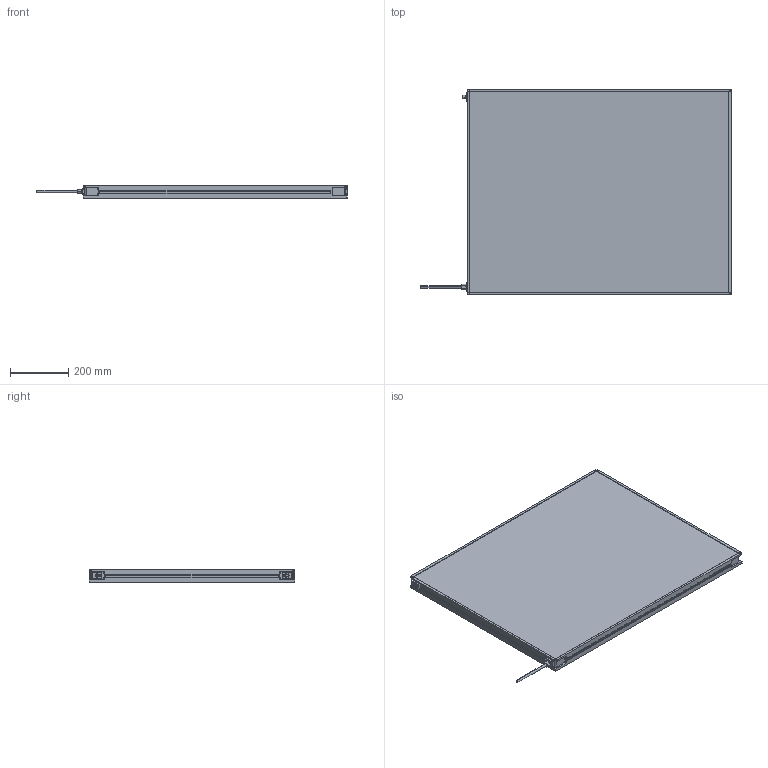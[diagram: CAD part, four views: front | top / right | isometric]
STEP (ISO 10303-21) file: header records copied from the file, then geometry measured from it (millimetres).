
FILE_DESCRIPTION (( 'STEP AP214' ), '1' );
FILE_NAME ('MBACK-xxxx-xxx-M1A2_CLIENT700x900.STEP', '2022-04-01T11:50:43', ( '' ), ( '' ), 'SwSTEP 2.0', 'SolidWorks 2020', '' );
FILE_SCHEMA (( 'AUTOMOTIVE_DESIGN' ));
Length unit declared in the file: millimetre
Products named in the file (1): MBACK-xxxx-xxx-M1A2_CLIENT700x900
Bounding box: 1067.4 x 708 x 45.5 mm (x, y, z)
Volume: 26784597 mm3; surface area: 1506321.2 mm2
Topology: 1 solids, 1 shells, 470 faces, 1210 edges, 804 vertices
Faces by surface type: plane 265, cylinder 117, bspline 80, cone 8
Entity records: 18046 total; most frequent: CARTESIAN_POINT 6837, ORIENTED_EDGE 2420, DIRECTION 2082, EDGE_CURVE 1210, VERTEX_POINT 804, VECTOR 800, LINE 800, AXIS2_PLACEMENT_3D 641
